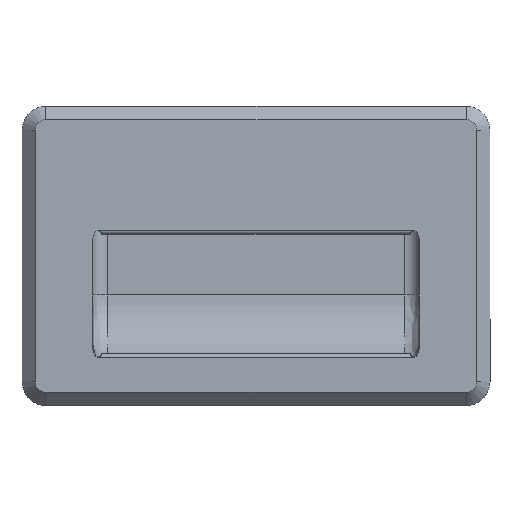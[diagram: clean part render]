
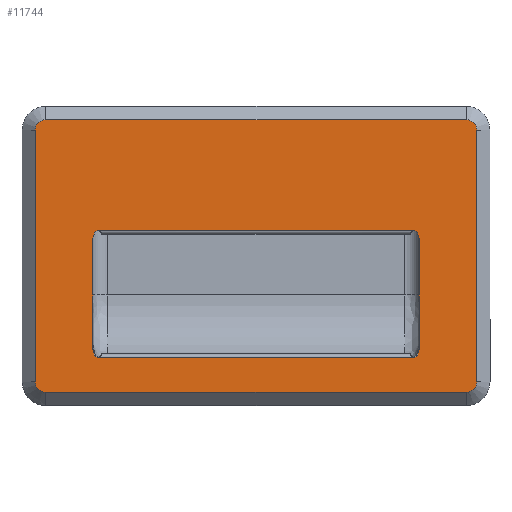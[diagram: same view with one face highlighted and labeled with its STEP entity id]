
A CAD part, top view. The second image highlights one B-rep face of the part: STEP entity #11744.
In plain terms, the highlighted planar face has unit normal (0, 0, 1).
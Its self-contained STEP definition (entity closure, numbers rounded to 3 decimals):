
#61 = ORIENTED_EDGE ( 'NONE', *, *, #2483, .T. ) ;
#62 = ORIENTED_EDGE ( 'NONE', *, *, #3548, .T. ) ;
#63 = ORIENTED_EDGE ( 'NONE', *, *, #3566, .T. ) ;
#64 = ORIENTED_EDGE ( 'NONE', *, *, #4300, .T. ) ;
#65 = ORIENTED_EDGE ( 'NONE', *, *, #4303, .T. ) ;
#66 = ORIENTED_EDGE ( 'NONE', *, *, #4299, .T. ) ;
#67 = ORIENTED_EDGE ( 'NONE', *, *, #2470, .T. ) ;
#68 = ORIENTED_EDGE ( 'NONE', *, *, #2481, .T. ) ;
#69 = ORIENTED_EDGE ( 'NONE', *, *, #4297, .T. ) ;
#70 = ORIENTED_EDGE ( 'NONE', *, *, #2468, .T. ) ;
#71 = ORIENTED_EDGE ( 'NONE', *, *, #11246, .T. ) ;
#72 = ORIENTED_EDGE ( 'NONE', *, *, #2471, .T. ) ;
#73 = ORIENTED_EDGE ( 'NONE', *, *, #2476, .T. ) ;
#74 = ORIENTED_EDGE ( 'NONE', *, *, #3549, .T. ) ;
#80 = ORIENTED_EDGE ( 'NONE', *, *, #3552, .T. ) ;
#112 = ORIENTED_EDGE ( 'NONE', *, *, #2467, .T. ) ;
#161 = CARTESIAN_POINT ( 'NONE',  ( 0., 7.5, 5. ) ) ;
#186 = DIRECTION ( 'NONE',  ( 1., 0., 0. ) ) ;
#494 = AXIS2_PLACEMENT_3D ( 'NONE', #9405, #9430, #9389 ) ;
#1358 = LINE ( 'NONE', #8106, #1362 ) ;
#1360 = CIRCLE ( 'NONE', #1898, 2.795 ) ;
#1361 = LINE ( 'NONE', #7904, #1367 ) ;
#1362 = VECTOR ( 'NONE', #8123, 1000. ) ;
#1366 = CIRCLE ( 'NONE', #1899, 2.795 ) ;
#1367 = VECTOR ( 'NONE', #8009, 1000. ) ;
#1369 = CIRCLE ( 'NONE', #1901, 3.1 ) ;
#1378 = LINE ( 'NONE', #7797, #1382 ) ;
#1382 = VECTOR ( 'NONE', #7821, 1000. ) ;
#1383 = LINE ( 'NONE', #8505, #1386 ) ;
#1386 = VECTOR ( 'NONE', #8486, 1000. ) ;
#1584 = VERTEX_POINT ( 'NONE', #6135 ) ;
#1585 = VERTEX_POINT ( 'NONE', #6134 ) ;
#1608 = VERTEX_POINT ( 'NONE', #6111 ) ;
#1898 = AXIS2_PLACEMENT_3D ( 'NONE', #7833, #7903, #7901 ) ;
#1899 = AXIS2_PLACEMENT_3D ( 'NONE', #7889, #7828, #7885 ) ;
#1901 = AXIS2_PLACEMENT_3D ( 'NONE', #7811, #7812, #7813 ) ;
#2467 = EDGE_CURVE ( 'NONE', #1585, #1584, #1358, .T. ) ;
#2468 = EDGE_CURVE ( 'NONE', #3409, #3419, #1360, .T. ) ;
#2470 = EDGE_CURVE ( 'NONE', #3462, #3458, #1361, .T. ) ;
#2471 = EDGE_CURVE ( 'NONE', #1584, #3441, #1366, .T. ) ;
#2476 = EDGE_CURVE ( 'NONE', #3425, #3469, #1369, .T. ) ;
#2481 = EDGE_CURVE ( 'NONE', #3469, #3444, #1378, .T. ) ;
#2483 = EDGE_CURVE ( 'NONE', #1608, #3436, #1383, .T. ) ;
#3083 = EDGE_LOOP ( 'NONE', ( #112, #72, #71, #70, #69, #66, #67, #65 ) ) ;
#3086 = EDGE_LOOP ( 'NONE', ( #64, #63, #73, #68, #80, #74, #62, #61 ) ) ;
#3409 = VERTEX_POINT ( 'NONE', #10839 ) ;
#3411 = VERTEX_POINT ( 'NONE', #10811 ) ;
#3415 = VERTEX_POINT ( 'NONE', #10758 ) ;
#3419 = VERTEX_POINT ( 'NONE', #10724 ) ;
#3422 = VERTEX_POINT ( 'NONE', #10663 ) ;
#3425 = VERTEX_POINT ( 'NONE', #10832 ) ;
#3436 = VERTEX_POINT ( 'NONE', #10781 ) ;
#3441 = VERTEX_POINT ( 'NONE', #10772 ) ;
#3444 = VERTEX_POINT ( 'NONE', #10662 ) ;
#3457 = VERTEX_POINT ( 'NONE', #10784 ) ;
#3458 = VERTEX_POINT ( 'NONE', #10837 ) ;
#3462 = VERTEX_POINT ( 'NONE', #10671 ) ;
#3469 = VERTEX_POINT ( 'NONE', #10819 ) ;
#3548 = EDGE_CURVE ( 'NONE', #3415, #1608, #4655, .T. ) ;
#3549 = EDGE_CURVE ( 'NONE', #3422, #3415, #4657, .T. ) ;
#3552 = EDGE_CURVE ( 'NONE', #3444, #3422, #4660, .T. ) ;
#3566 = EDGE_CURVE ( 'NONE', #3411, #3425, #4689, .T. ) ;
#4297 = EDGE_CURVE ( 'NONE', #3419, #3457, #12358, .T. ) ;
#4299 = EDGE_CURVE ( 'NONE', #3457, #3462, #12363, .T. ) ;
#4300 = EDGE_CURVE ( 'NONE', #3436, #3411, #12365, .T. ) ;
#4303 = EDGE_CURVE ( 'NONE', #3458, #1585, #12368, .T. ) ;
#4655 = CIRCLE ( 'NONE', #10093, 3.1 ) ;
#4657 = LINE ( 'NONE', #5403, #4659 ) ;
#4659 = VECTOR ( 'NONE', #5273, 1000. ) ;
#4660 = CIRCLE ( 'NONE', #10097, 3.1 ) ;
#4689 = LINE ( 'NONE', #5407, #4699 ) ;
#4699 = VECTOR ( 'NONE', #4918, 1000. ) ;
#4785 = DIRECTION ( 'NONE',  ( 0., 1., 0. ) ) ;
#4918 = DIRECTION ( 'NONE',  ( 1., 0., 0. ) ) ;
#4924 = DIRECTION ( 'NONE',  ( 0., 0., 1. ) ) ;
#4929 = DIRECTION ( 'NONE',  ( 0., 1., 0. ) ) ;
#4949 = CARTESIAN_POINT ( 'NONE',  ( 62.24, 37.24, 5. ) ) ;
#5014 = CARTESIAN_POINT ( 'NONE',  ( -62.24, 37.24, 5. ) ) ;
#5166 = DIRECTION ( 'NONE',  ( 0., 0., 1. ) ) ;
#5273 = DIRECTION ( 'NONE',  ( -1., 0., 0. ) ) ;
#5403 = CARTESIAN_POINT ( 'NONE',  ( 0., 40.34, 5. ) ) ;
#5407 = CARTESIAN_POINT ( 'NONE',  ( 0., -40.34, 5. ) ) ;
#6111 = CARTESIAN_POINT ( 'NONE',  ( -65.34, 37.24, 5. ) ) ;
#6134 = CARTESIAN_POINT ( 'NONE',  ( -48.25, -27.671, 5. ) ) ;
#6135 = CARTESIAN_POINT ( 'NONE',  ( -48.25, 5.171, 5. ) ) ;
#7797 = CARTESIAN_POINT ( 'NONE',  ( 65.34, 0., 5. ) ) ;
#7811 = CARTESIAN_POINT ( 'NONE',  ( 62.24, -37.24, 5. ) ) ;
#7812 = DIRECTION ( 'NONE',  ( 0., 0., 1. ) ) ;
#7813 = DIRECTION ( 'NONE',  ( 0., 1., 0. ) ) ;
#7821 = DIRECTION ( 'NONE',  ( 0., 1., 0. ) ) ;
#7828 = DIRECTION ( 'NONE',  ( 0., 0., -1. ) ) ;
#7833 = CARTESIAN_POINT ( 'NONE',  ( 45.455, 5.171, 5. ) ) ;
#7885 = DIRECTION ( 'NONE',  ( 0., -1., 0. ) ) ;
#7889 = CARTESIAN_POINT ( 'NONE',  ( -45.455, 5.171, 5. ) ) ;
#7901 = DIRECTION ( 'NONE',  ( 0., -1., 0. ) ) ;
#7903 = DIRECTION ( 'NONE',  ( 0., 0., -1. ) ) ;
#7904 = CARTESIAN_POINT ( 'NONE',  ( 0., -30., 5. ) ) ;
#8009 = DIRECTION ( 'NONE',  ( -1., 0., 0. ) ) ;
#8106 = CARTESIAN_POINT ( 'NONE',  ( -48.25, 0., 5. ) ) ;
#8123 = DIRECTION ( 'NONE',  ( 0., 1., 0. ) ) ;
#8486 = DIRECTION ( 'NONE',  ( 0., -1., 0. ) ) ;
#8505 = CARTESIAN_POINT ( 'NONE',  ( -65.34, 0., 5. ) ) ;
#9351 = PLANE ( 'NONE',  #494 ) ;
#9389 = DIRECTION ( 'NONE',  ( 1., 0., 0. ) ) ;
#9405 = CARTESIAN_POINT ( 'NONE',  ( -65.34, -40.34, 5. ) ) ;
#9430 = DIRECTION ( 'NONE',  ( 0., 0., 1. ) ) ;
#10093 = AXIS2_PLACEMENT_3D ( 'NONE', #5014, #5166, #4785 ) ;
#10097 = AXIS2_PLACEMENT_3D ( 'NONE', #4949, #4924, #4929 ) ;
#10213 = AXIS2_PLACEMENT_3D ( 'NONE', #13032, #13151, #13208 ) ;
#10214 = AXIS2_PLACEMENT_3D ( 'NONE', #12823, #12946, #13320 ) ;
#10216 = AXIS2_PLACEMENT_3D ( 'NONE', #13025, #13027, #13427 ) ;
#10662 = CARTESIAN_POINT ( 'NONE',  ( 65.34, 37.24, 5. ) ) ;
#10663 = CARTESIAN_POINT ( 'NONE',  ( 62.24, 40.34, 5. ) ) ;
#10671 = CARTESIAN_POINT ( 'NONE',  ( 47., -30., 5. ) ) ;
#10724 = CARTESIAN_POINT ( 'NONE',  ( 48.25, 5.171, 5. ) ) ;
#10758 = CARTESIAN_POINT ( 'NONE',  ( -62.24, 40.34, 5. ) ) ;
#10772 = CARTESIAN_POINT ( 'NONE',  ( -47., 7.5, 5. ) ) ;
#10781 = CARTESIAN_POINT ( 'NONE',  ( -65.34, -37.24, 5. ) ) ;
#10784 = CARTESIAN_POINT ( 'NONE',  ( 48.25, -27.671, 5. ) ) ;
#10811 = CARTESIAN_POINT ( 'NONE',  ( -62.24, -40.34, 5. ) ) ;
#10819 = CARTESIAN_POINT ( 'NONE',  ( 65.34, -37.24, 5. ) ) ;
#10832 = CARTESIAN_POINT ( 'NONE',  ( 62.24, -40.34, 5. ) ) ;
#10837 = CARTESIAN_POINT ( 'NONE',  ( -47., -30., 5. ) ) ;
#10839 = CARTESIAN_POINT ( 'NONE',  ( 47., 7.5, 5. ) ) ;
#11246 = EDGE_CURVE ( 'NONE', #3441, #3409, #13792, .T. ) ;
#11744 = ADVANCED_FACE ( 'NONE', ( #14626, #14631 ), #9351, .T. ) ;
#12358 = LINE ( 'NONE', #12814, #12362 ) ;
#12362 = VECTOR ( 'NONE', #13168, 1000. ) ;
#12363 = CIRCLE ( 'NONE', #10213, 2.795 ) ;
#12365 = CIRCLE ( 'NONE', #10214, 3.1 ) ;
#12368 = CIRCLE ( 'NONE', #10216, 2.795 ) ;
#12814 = CARTESIAN_POINT ( 'NONE',  ( 48.25, 0., 5. ) ) ;
#12823 = CARTESIAN_POINT ( 'NONE',  ( -62.24, -37.24, 5. ) ) ;
#12946 = DIRECTION ( 'NONE',  ( 0., 0., 1. ) ) ;
#13025 = CARTESIAN_POINT ( 'NONE',  ( -45.455, -27.671, 5. ) ) ;
#13027 = DIRECTION ( 'NONE',  ( 0., 0., -1. ) ) ;
#13032 = CARTESIAN_POINT ( 'NONE',  ( 45.455, -27.671, 5. ) ) ;
#13151 = DIRECTION ( 'NONE',  ( 0., 0., -1. ) ) ;
#13168 = DIRECTION ( 'NONE',  ( 0., -1., 0. ) ) ;
#13208 = DIRECTION ( 'NONE',  ( 0., -1., 0. ) ) ;
#13320 = DIRECTION ( 'NONE',  ( 0., 1., 0. ) ) ;
#13427 = DIRECTION ( 'NONE',  ( 0., -1., 0. ) ) ;
#13792 = LINE ( 'NONE', #161, #13801 ) ;
#13801 = VECTOR ( 'NONE', #186, 1000. ) ;
#14626 = FACE_BOUND ( 'NONE', #3083, .T. ) ;
#14631 = FACE_OUTER_BOUND ( 'NONE', #3086, .T. ) ;
